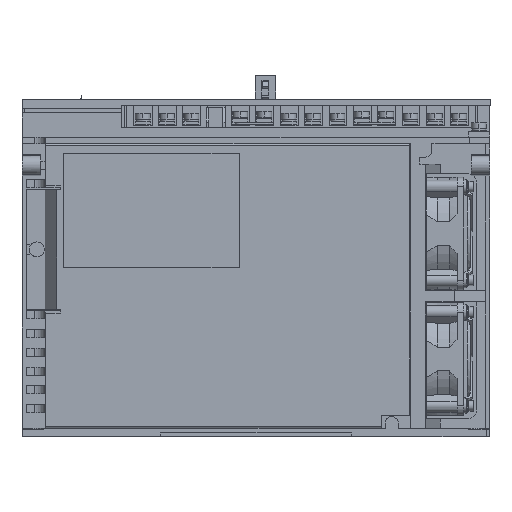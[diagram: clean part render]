
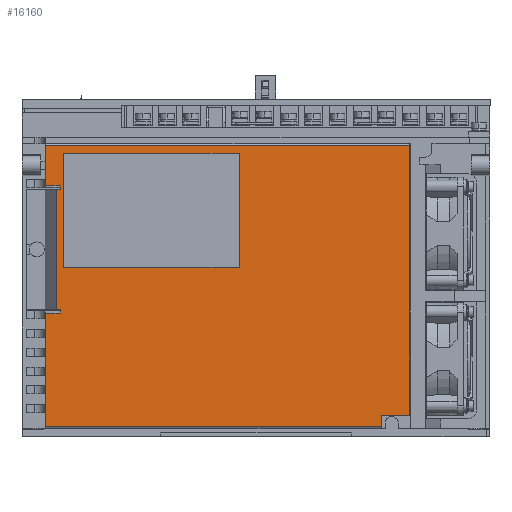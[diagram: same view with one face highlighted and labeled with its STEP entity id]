
A CAD part, left-side view. The second image highlights one B-rep face of the part: STEP entity #16160.
In plain terms, the highlighted planar face has unit normal (-1, 0, 0).
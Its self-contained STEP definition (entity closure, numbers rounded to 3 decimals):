
#16127 = EDGE_CURVE ( 'NONE', #16128, #16218, #48987, .T. ) ;
#16128 = VERTEX_POINT ( 'NONE', #48983 ) ;
#16129 = ORIENTED_EDGE ( 'NONE', *, *, #16130, .F. ) ;
#16130 = EDGE_CURVE ( 'NONE', #16132, #16128, #48982, .T. ) ;
#16132 = VERTEX_POINT ( 'NONE', #48978 ) ;
#16133 = ORIENTED_EDGE ( 'NONE', *, *, #16135, .F. ) ;
#16135 = EDGE_CURVE ( 'NONE', #16136, #16132, #48973, .T. ) ;
#16136 = VERTEX_POINT ( 'NONE', #48969 ) ;
#16137 = ORIENTED_EDGE ( 'NONE', *, *, #16138, .F. ) ;
#16138 = EDGE_CURVE ( 'NONE', #16139, #16136, #48968, .T. ) ;
#16139 = VERTEX_POINT ( 'NONE', #48964 ) ;
#16140 = ORIENTED_EDGE ( 'NONE', *, *, #16202, .F. ) ;
#16141 = VERTEX_POINT ( 'NONE', #48963 ) ;
#16142 = VERTEX_POINT ( 'NONE', #49026 ) ;
#16143 = ORIENTED_EDGE ( 'NONE', *, *, #16144, .F. ) ;
#16144 = EDGE_CURVE ( 'NONE', #16145, #16142, #49025, .T. ) ;
#16145 = VERTEX_POINT ( 'NONE', #49021 ) ;
#16146 = ORIENTED_EDGE ( 'NONE', *, *, #16147, .T. ) ;
#16147 = EDGE_CURVE ( 'NONE', #16145, #16148, #49020, .T. ) ;
#16148 = VERTEX_POINT ( 'NONE', #49016 ) ;
#16149 = ORIENTED_EDGE ( 'NONE', *, *, #16150, .F. ) ;
#16150 = EDGE_CURVE ( 'NONE', #16151, #16148, #49015, .T. ) ;
#16151 = VERTEX_POINT ( 'NONE', #49011 ) ;
#16152 = ORIENTED_EDGE ( 'NONE', *, *, #16153, .F. ) ;
#16153 = EDGE_CURVE ( 'NONE', #16154, #16151, #49010, .T. ) ;
#16154 = VERTEX_POINT ( 'NONE', #49006 ) ;
#16155 = ORIENTED_EDGE ( 'NONE', *, *, #16156, .T. ) ;
#16156 = EDGE_CURVE ( 'NONE', #16154, #16218, #49005, .T. ) ;
#16160 = ADVANCED_FACE ( 'NONE', ( #48995, #49057 ), #49056, .F. ) ;
#16161 = EDGE_LOOP ( 'NONE', ( #16162, #16166, #16169, #16143, #16146, #16149, #16152, #16155, #16220, #16129, #16133, #16137, #16140, #16203 ) ) ;
#16162 = ORIENTED_EDGE ( 'NONE', *, *, #16163, .T. ) ;
#16163 = EDGE_CURVE ( 'NONE', #16164, #16165, #49051, .T. ) ;
#16164 = VERTEX_POINT ( 'NONE', #49047 ) ;
#16165 = VERTEX_POINT ( 'NONE', #49046 ) ;
#16166 = ORIENTED_EDGE ( 'NONE', *, *, #16167, .F. ) ;
#16167 = EDGE_CURVE ( 'NONE', #16168, #16165, #49045, .T. ) ;
#16168 = VERTEX_POINT ( 'NONE', #49041 ) ;
#16169 = ORIENTED_EDGE ( 'NONE', *, *, #16170, .F. ) ;
#16170 = EDGE_CURVE ( 'NONE', #16142, #16168, #49040, .T. ) ;
#16188 = EDGE_CURVE ( 'NONE', #16209, #16215, #49071, .T. ) ;
#16202 = EDGE_CURVE ( 'NONE', #16141, #16139, #49112, .T. ) ;
#16203 = ORIENTED_EDGE ( 'NONE', *, *, #16204, .T. ) ;
#16204 = EDGE_CURVE ( 'NONE', #16141, #16164, #49108, .T. ) ;
#16205 = EDGE_LOOP ( 'NONE', ( #16206, #16210, #16213, #16216 ) ) ;
#16206 = ORIENTED_EDGE ( 'NONE', *, *, #16207, .F. ) ;
#16207 = EDGE_CURVE ( 'NONE', #16208, #16209, #49103, .T. ) ;
#16208 = VERTEX_POINT ( 'NONE', #49097 ) ;
#16209 = VERTEX_POINT ( 'NONE', #49098 ) ;
#16210 = ORIENTED_EDGE ( 'NONE', *, *, #16211, .F. ) ;
#16211 = EDGE_CURVE ( 'NONE', #16212, #16208, #49162, .T. ) ;
#16212 = VERTEX_POINT ( 'NONE', #49158 ) ;
#16213 = ORIENTED_EDGE ( 'NONE', *, *, #16214, .F. ) ;
#16214 = EDGE_CURVE ( 'NONE', #16215, #16212, #49157, .T. ) ;
#16215 = VERTEX_POINT ( 'NONE', #49153 ) ;
#16216 = ORIENTED_EDGE ( 'NONE', *, *, #16188, .F. ) ;
#16218 = VERTEX_POINT ( 'NONE', #49148 ) ;
#16220 = ORIENTED_EDGE ( 'NONE', *, *, #16127, .F. ) ;
#48963 = CARTESIAN_POINT ( 'NONE',  ( -4., -6.45, 134. ) ) ;
#48964 = CARTESIAN_POINT ( 'NONE',  ( -4., -6.45, 155.5 ) ) ;
#48965 = DIRECTION ( 'NONE',  ( 0., -1., 0. ) ) ;
#48966 = VECTOR ( 'NONE', #48965, 1000. ) ;
#48967 = CARTESIAN_POINT ( 'NONE',  ( -4., 158.329, 155.5 ) ) ;
#48968 = LINE ( 'NONE', #48967, #48966 ) ;
#48969 = CARTESIAN_POINT ( 'NONE',  ( -4., -201.02, 155.5 ) ) ;
#48970 = DIRECTION ( 'NONE',  ( 0., 0., -1. ) ) ;
#48971 = VECTOR ( 'NONE', #48970, 1000. ) ;
#48972 = CARTESIAN_POINT ( 'NONE',  ( -4., -201.02, 155.5 ) ) ;
#48973 = LINE ( 'NONE', #48972, #48971 ) ;
#48978 = CARTESIAN_POINT ( 'NONE',  ( -4., -201.02, 11.5 ) ) ;
#48979 = DIRECTION ( 'NONE',  ( 0., 1., 0. ) ) ;
#48980 = VECTOR ( 'NONE', #48979, 1000. ) ;
#48981 = CARTESIAN_POINT ( 'NONE',  ( -4., -346.523, 11.5 ) ) ;
#48982 = LINE ( 'NONE', #48981, #48980 ) ;
#48983 = CARTESIAN_POINT ( 'NONE',  ( -4., -185.95, 11.5 ) ) ;
#48984 = DIRECTION ( 'NONE',  ( 0., 0., -1. ) ) ;
#48985 = VECTOR ( 'NONE', #48984, 1000. ) ;
#48986 = CARTESIAN_POINT ( 'NONE',  ( -4., -185.95, 5.5 ) ) ;
#48987 = LINE ( 'NONE', #48986, #48985 ) ;
#48995 = FACE_OUTER_BOUND ( 'NONE', #16161, .T. ) ;
#49002 = DIRECTION ( 'NONE',  ( 0., -1., 0. ) ) ;
#49003 = VECTOR ( 'NONE', #49002, 1000. ) ;
#49004 = CARTESIAN_POINT ( 'NONE',  ( -4., 158.329, 5.5 ) ) ;
#49005 = LINE ( 'NONE', #49004, #49003 ) ;
#49006 = CARTESIAN_POINT ( 'NONE',  ( -4., -6.45, 5.5 ) ) ;
#49007 = DIRECTION ( 'NONE',  ( 0., 0., 1. ) ) ;
#49008 = VECTOR ( 'NONE', #49007, 1000. ) ;
#49009 = CARTESIAN_POINT ( 'NONE',  ( -4., -6.45, 5.5 ) ) ;
#49010 = LINE ( 'NONE', #49009, #49008 ) ;
#49011 = CARTESIAN_POINT ( 'NONE',  ( -4., -6.45, 66. ) ) ;
#49012 = DIRECTION ( 'NONE',  ( 0., -1., 0. ) ) ;
#49013 = VECTOR ( 'NONE', #49012, 1000. ) ;
#49014 = CARTESIAN_POINT ( 'NONE',  ( -4., -6.45, 66. ) ) ;
#49015 = LINE ( 'NONE', #49014, #49013 ) ;
#49016 = CARTESIAN_POINT ( 'NONE',  ( -4., -14.45, 66. ) ) ;
#49017 = DIRECTION ( 'NONE',  ( 0., 0., -1. ) ) ;
#49018 = VECTOR ( 'NONE', #49017, 1000. ) ;
#49019 = CARTESIAN_POINT ( 'NONE',  ( -4., -14.45, 5.5 ) ) ;
#49020 = LINE ( 'NONE', #49019, #49018 ) ;
#49021 = CARTESIAN_POINT ( 'NONE',  ( -4., -14.45, 68. ) ) ;
#49022 = DIRECTION ( 'NONE',  ( 0., 1., 0. ) ) ;
#49023 = VECTOR ( 'NONE', #49022, 1000. ) ;
#49024 = CARTESIAN_POINT ( 'NONE',  ( -4., -12.445, 68. ) ) ;
#49025 = LINE ( 'NONE', #49024, #49023 ) ;
#49026 = CARTESIAN_POINT ( 'NONE',  ( -4., -12.445, 68. ) ) ;
#49037 = DIRECTION ( 'NONE',  ( 0., 0., 1. ) ) ;
#49038 = VECTOR ( 'NONE', #49037, 1000. ) ;
#49039 = CARTESIAN_POINT ( 'NONE',  ( -4., -12.445, 28.846 ) ) ;
#49040 = LINE ( 'NONE', #49039, #49038 ) ;
#49041 = CARTESIAN_POINT ( 'NONE',  ( -4., -12.445, 132. ) ) ;
#49042 = DIRECTION ( 'NONE',  ( 0., -1., 0. ) ) ;
#49043 = VECTOR ( 'NONE', #49042, 1000. ) ;
#49044 = CARTESIAN_POINT ( 'NONE',  ( -4., -12.445, 132. ) ) ;
#49045 = LINE ( 'NONE', #49044, #49043 ) ;
#49046 = CARTESIAN_POINT ( 'NONE',  ( -4., -14.45, 132. ) ) ;
#49047 = CARTESIAN_POINT ( 'NONE',  ( -4., -14.45, 134. ) ) ;
#49048 = DIRECTION ( 'NONE',  ( 0., 0., -1. ) ) ;
#49049 = VECTOR ( 'NONE', #49048, 1000. ) ;
#49050 = CARTESIAN_POINT ( 'NONE',  ( -4., -14.45, 5.5 ) ) ;
#49051 = LINE ( 'NONE', #49050, #49049 ) ;
#49052 = DIRECTION ( 'NONE',  ( 0., 0., -1. ) ) ;
#49053 = DIRECTION ( 'NONE',  ( 1., 0., 0. ) ) ;
#49054 = CARTESIAN_POINT ( 'NONE',  ( -4., 158.329, 5.5 ) ) ;
#49055 = AXIS2_PLACEMENT_3D ( 'NONE', #49054, #49053, #49052 ) ;
#49056 = PLANE ( 'NONE',  #49055 ) ;
#49057 = FACE_BOUND ( 'NONE', #16205, .T. ) ;
#49067 = DIRECTION ( 'NONE',  ( 0., 0., 1. ) ) ;
#49068 = VECTOR ( 'NONE', #49067, 1000. ) ;
#49070 = CARTESIAN_POINT ( 'NONE',  ( -4., -110., 90.5 ) ) ;
#49071 = LINE ( 'NONE', #49070, #49068 ) ;
#49097 = CARTESIAN_POINT ( 'NONE',  ( -4., -16., 90.5 ) ) ;
#49098 = CARTESIAN_POINT ( 'NONE',  ( -4., -110., 90.5 ) ) ;
#49099 = DIRECTION ( 'NONE',  ( 0., -1., 0. ) ) ;
#49101 = VECTOR ( 'NONE', #49099, 1000. ) ;
#49102 = CARTESIAN_POINT ( 'NONE',  ( -4., -16., 90.5 ) ) ;
#49103 = LINE ( 'NONE', #49102, #49101 ) ;
#49105 = DIRECTION ( 'NONE',  ( 0., -1., 0. ) ) ;
#49106 = VECTOR ( 'NONE', #49105, 1000. ) ;
#49107 = CARTESIAN_POINT ( 'NONE',  ( -4., -6.45, 134. ) ) ;
#49108 = LINE ( 'NONE', #49107, #49106 ) ;
#49109 = DIRECTION ( 'NONE',  ( 0., 0., 1. ) ) ;
#49110 = VECTOR ( 'NONE', #49109, 1000. ) ;
#49111 = CARTESIAN_POINT ( 'NONE',  ( -4., -6.45, 134. ) ) ;
#49112 = LINE ( 'NONE', #49111, #49110 ) ;
#49148 = CARTESIAN_POINT ( 'NONE',  ( -4., -185.95, 5.5 ) ) ;
#49153 = CARTESIAN_POINT ( 'NONE',  ( -4., -110., 151.5 ) ) ;
#49154 = DIRECTION ( 'NONE',  ( 0., 1., 0. ) ) ;
#49155 = VECTOR ( 'NONE', #49154, 1000. ) ;
#49156 = CARTESIAN_POINT ( 'NONE',  ( -4., -16., 151.5 ) ) ;
#49157 = LINE ( 'NONE', #49156, #49155 ) ;
#49158 = CARTESIAN_POINT ( 'NONE',  ( -4., -16., 151.5 ) ) ;
#49159 = DIRECTION ( 'NONE',  ( 0., 0., -1. ) ) ;
#49160 = VECTOR ( 'NONE', #49159, 1000. ) ;
#49161 = CARTESIAN_POINT ( 'NONE',  ( -4., -16., 90.5 ) ) ;
#49162 = LINE ( 'NONE', #49161, #49160 ) ;
